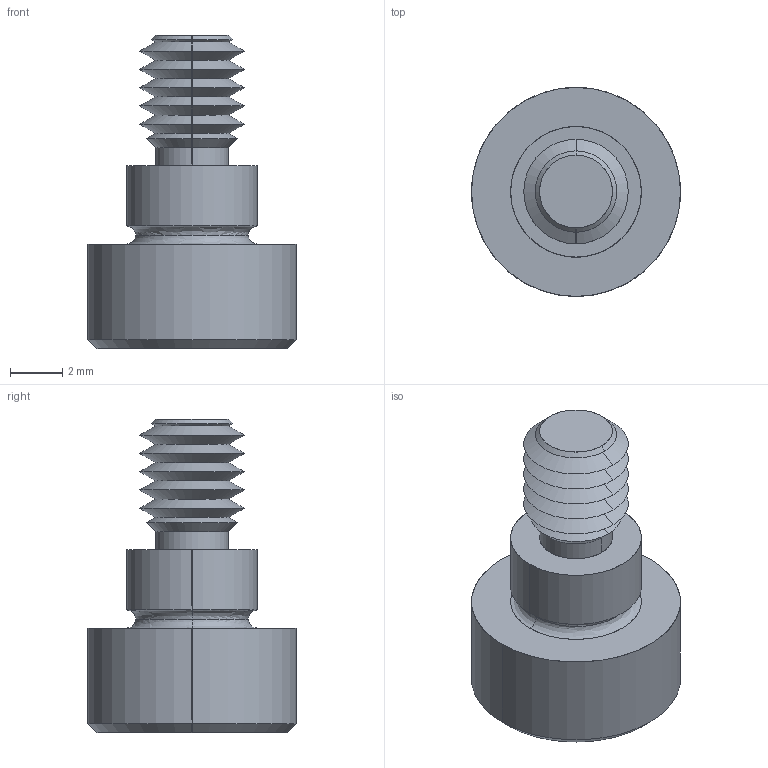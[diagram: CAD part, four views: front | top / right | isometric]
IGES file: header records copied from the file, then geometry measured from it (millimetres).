
Start section: SolidWorks IGES file using analytic representation for surfaces
Global section: file name: C:\Users\IanO\Documents\Temp Folder\GENERAL\SCREW REVISION\P0130_v2\P0130.T5_v2_20220106_IGES\P0130.050-003-T5.igs; native system: SolidWorks 2019; preprocessor: SolidWorks 2019; author: IanO; date: 220106.221212; units: millimetre
Bounding box: 8 x 8 x 12 mm (x, y, z)
Surface area: 363.1 mm2 (no closed solid volume)
Topology: 0 solids, 0 shells, 64 faces, 504 edges, 502 vertices
Faces by surface type: revolution 44, bspline 20
